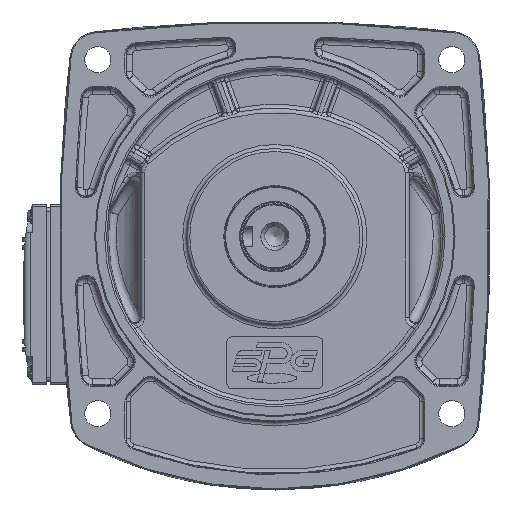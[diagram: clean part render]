
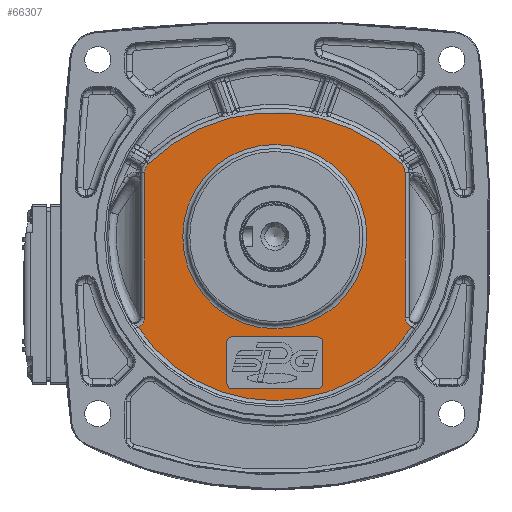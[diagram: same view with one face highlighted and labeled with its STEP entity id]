
A CAD part, top view. The second image highlights one B-rep face of the part: STEP entity #66307.
In plain terms, the highlighted planar face has unit normal (0, 0, 1).
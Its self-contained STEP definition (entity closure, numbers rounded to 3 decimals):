
#2219=LINE('',#108371,#5272);
#2223=LINE('',#108383,#5276);
#2258=LINE('',#108502,#5311);
#2328=LINE('',#108687,#5381);
#2580=LINE('',#115140,#5633);
#2581=LINE('',#115155,#5634);
#5272=VECTOR('',#82647,10.);
#5276=VECTOR('',#82659,10.);
#5311=VECTOR('',#82750,10.);
#5381=VECTOR('',#82938,10.);
#5633=VECTOR('',#84290,10.);
#5634=VECTOR('',#84293,10.);
#8289=FACE_BOUND('',#15249,.T.);
#8290=FACE_BOUND('',#15250,.T.);
#8976=PLANE('',#72006);
#11112=FACE_OUTER_BOUND('',#15248,.T.);
#15248=EDGE_LOOP('',(#48922,#48923,#48924,#48925,#48926,#48927,#48928,#48929));
#15249=EDGE_LOOP('',(#48930,#48931,#48932,#48933,#48934,#48935,#48936,#48937));
#15250=EDGE_LOOP('',(#48938));
#19142=CIRCLE('',#71364,3.);
#19144=CIRCLE('',#71368,3.);
#19146=CIRCLE('',#71372,3.);
#19170=CIRCLE('',#71399,3.);
#19484=CIRCLE('',#72002,81.929);
#19488=CIRCLE('',#72007,90.551);
#19489=CIRCLE('',#72008,46.);
#22373=B_SPLINE_CURVE_WITH_KNOTS('',3,(#115117,#115118,#115119,#115120,
#115121),.UNSPECIFIED.,.F.,.F.,(4,1,4),(0.682,0.93,
1.302),.UNSPECIFIED.);
#22375=B_SPLINE_CURVE_WITH_KNOTS('',3,(#115133,#115134,#115135,#115136,
#115137,#115138),.UNSPECIFIED.,.F.,.F.,(4,1,1,4),(0.,0.372,0.558,
0.621),.UNSPECIFIED.);
#22376=B_SPLINE_CURVE_WITH_KNOTS('',3,(#115142,#115143,#115144,#115145,
#115146),.UNSPECIFIED.,.F.,.F.,(4,1,4),(0.,0.205,0.478),
 .UNSPECIFIED.);
#22377=B_SPLINE_CURVE_WITH_KNOTS('',3,(#115150,#115151,#115152,#115153,
#115154),.UNSPECIFIED.,.F.,.F.,(4,1,4),(0.,0.273,0.478),
 .UNSPECIFIED.);
#26689=VERTEX_POINT('',#108361);
#26690=VERTEX_POINT('',#108363);
#26692=VERTEX_POINT('',#108369);
#26694=VERTEX_POINT('',#108375);
#26696=VERTEX_POINT('',#108381);
#26699=VERTEX_POINT('',#108388);
#26700=VERTEX_POINT('',#108390);
#26752=VERTEX_POINT('',#108501);
#27230=VERTEX_POINT('',#114911);
#27231=VERTEX_POINT('',#114913);
#27235=VERTEX_POINT('',#115116);
#27237=VERTEX_POINT('',#115132);
#27238=VERTEX_POINT('',#115139);
#27239=VERTEX_POINT('',#115141);
#27240=VERTEX_POINT('',#115147);
#27241=VERTEX_POINT('',#115149);
#27242=VERTEX_POINT('',#115156);
#33855=EDGE_CURVE('',#26689,#26690,#19142,.T.);
#33859=EDGE_CURVE('',#26689,#26692,#2219,.T.);
#33862=EDGE_CURVE('',#26694,#26692,#19144,.T.);
#33865=EDGE_CURVE('',#26694,#26696,#2223,.T.);
#33868=EDGE_CURVE('',#26699,#26700,#19146,.T.);
#33925=EDGE_CURVE('',#26752,#26700,#2258,.T.);
#33927=EDGE_CURVE('',#26752,#26696,#19170,.T.);
#34020=EDGE_CURVE('',#26699,#26690,#2328,.T.);
#34805=EDGE_CURVE('',#27230,#27231,#19484,.T.);
#34812=EDGE_CURVE('',#27231,#27235,#22373,.T.);
#34815=EDGE_CURVE('',#27237,#27230,#22375,.T.);
#34816=EDGE_CURVE('',#27238,#27237,#2580,.T.);
#34817=EDGE_CURVE('',#27239,#27238,#22376,.T.);
#34818=EDGE_CURVE('',#27240,#27239,#19488,.T.);
#34819=EDGE_CURVE('',#27241,#27240,#22377,.T.);
#34820=EDGE_CURVE('',#27235,#27241,#2581,.T.);
#34821=EDGE_CURVE('',#27242,#27242,#19489,.T.);
#48922=ORIENTED_EDGE('',*,*,#34805,.F.);
#48923=ORIENTED_EDGE('',*,*,#34815,.F.);
#48924=ORIENTED_EDGE('',*,*,#34816,.F.);
#48925=ORIENTED_EDGE('',*,*,#34817,.F.);
#48926=ORIENTED_EDGE('',*,*,#34818,.F.);
#48927=ORIENTED_EDGE('',*,*,#34819,.F.);
#48928=ORIENTED_EDGE('',*,*,#34820,.F.);
#48929=ORIENTED_EDGE('',*,*,#34812,.F.);
#48930=ORIENTED_EDGE('',*,*,#33865,.T.);
#48931=ORIENTED_EDGE('',*,*,#33927,.F.);
#48932=ORIENTED_EDGE('',*,*,#33925,.T.);
#48933=ORIENTED_EDGE('',*,*,#33868,.F.);
#48934=ORIENTED_EDGE('',*,*,#34020,.T.);
#48935=ORIENTED_EDGE('',*,*,#33855,.F.);
#48936=ORIENTED_EDGE('',*,*,#33859,.T.);
#48937=ORIENTED_EDGE('',*,*,#33862,.F.);
#48938=ORIENTED_EDGE('',*,*,#34821,.F.);
#66307=ADVANCED_FACE('',(#11112,#8289,#8290),#8976,.F.);
#71364=AXIS2_PLACEMENT_3D('',#108364,#82640,#82641);
#71368=AXIS2_PLACEMENT_3D('',#108377,#82653,#82654);
#71372=AXIS2_PLACEMENT_3D('',#108391,#82665,#82666);
#71399=AXIS2_PLACEMENT_3D('',#108505,#82754,#82755);
#72002=AXIS2_PLACEMENT_3D('',#114914,#84280,#84281);
#72006=AXIS2_PLACEMENT_3D('',#115131,#84288,#84289);
#72007=AXIS2_PLACEMENT_3D('',#115148,#84291,#84292);
#72008=AXIS2_PLACEMENT_3D('',#115157,#84294,#84295);
#82640=DIRECTION('center_axis',(0.,0.,1.));
#82641=DIRECTION('ref_axis',(0.707,-0.707,0.));
#82647=DIRECTION('',(-1.,0.,0.));
#82653=DIRECTION('center_axis',(0.,0.,1.));
#82654=DIRECTION('ref_axis',(-0.707,-0.707,0.));
#82659=DIRECTION('',(0.,1.,0.));
#82665=DIRECTION('center_axis',(0.,0.,1.));
#82666=DIRECTION('ref_axis',(0.707,0.707,0.));
#82750=DIRECTION('',(1.,0.,0.));
#82754=DIRECTION('center_axis',(0.,0.,1.));
#82755=DIRECTION('ref_axis',(-0.707,0.707,0.));
#82938=DIRECTION('',(0.,-1.,0.));
#84280=DIRECTION('center_axis',(0.,0.,-1.));
#84281=DIRECTION('ref_axis',(0.,-1.,0.));
#84288=DIRECTION('center_axis',(0.,0.,-1.));
#84289=DIRECTION('ref_axis',(-1.,0.,0.));
#84290=DIRECTION('',(0.,-1.,0.));
#84291=DIRECTION('center_axis',(0.,0.,-1.));
#84292=DIRECTION('ref_axis',(0.,1.,0.));
#84293=DIRECTION('',(0.,1.,0.));
#84294=DIRECTION('center_axis',(0.,0.,1.));
#84295=DIRECTION('ref_axis',(-1.,0.,0.));
#108361=CARTESIAN_POINT('',(23.891,-47.42,67.));
#108363=CARTESIAN_POINT('',(26.891,-44.42,67.));
#108364=CARTESIAN_POINT('Origin',(23.891,-44.42,67.));
#108369=CARTESIAN_POINT('',(-18.109,-47.42,67.));
#108371=CARTESIAN_POINT('',(-9.109,-47.42,67.));
#108375=CARTESIAN_POINT('',(-21.109,-44.42,67.));
#108377=CARTESIAN_POINT('Origin',(-18.109,-44.42,67.));
#108381=CARTESIAN_POINT('',(-21.109,-24.42,67.));
#108383=CARTESIAN_POINT('',(-21.109,-10.67,67.));
#108388=CARTESIAN_POINT('',(26.891,-24.42,67.));
#108390=CARTESIAN_POINT('',(23.891,-21.42,67.));
#108391=CARTESIAN_POINT('Origin',(23.891,-24.42,67.));
#108501=CARTESIAN_POINT('',(-18.109,-21.42,67.));
#108502=CARTESIAN_POINT('',(14.891,-21.42,67.));
#108505=CARTESIAN_POINT('Origin',(-18.109,-24.42,67.));
#108687=CARTESIAN_POINT('',(26.891,-23.67,67.));
#114911=CARTESIAN_POINT('',(71.3,-16.503,67.));
#114913=CARTESIAN_POINT('',(-65.518,-16.503,67.));
#114914=CARTESIAN_POINT('Origin',(2.891,28.58,67.));
#115116=CARTESIAN_POINT('',(-62.109,-11.751,67.));
#115117=CARTESIAN_POINT('Ctrl Pts',(-65.52,-16.499,
67.));
#115118=CARTESIAN_POINT('Ctrl Pts',(-64.731,-16.23,
67.));
#115119=CARTESIAN_POINT('Ctrl Pts',(-62.92,-15.07,
67.));
#115120=CARTESIAN_POINT('Ctrl Pts',(-62.109,-12.992,
67.));
#115121=CARTESIAN_POINT('Ctrl Pts',(-62.109,-11.751,
67.));
#115131=CARTESIAN_POINT('Origin',(2.891,0.08,67.));
#115132=CARTESIAN_POINT('',(67.891,-11.751,67.));
#115133=CARTESIAN_POINT('Ctrl Pts',(67.891,-11.751,
67.));
#115134=CARTESIAN_POINT('Ctrl Pts',(67.891,-12.992,
67.));
#115135=CARTESIAN_POINT('Ctrl Pts',(68.62,-14.854,
67.));
#115136=CARTESIAN_POINT('Ctrl Pts',(70.33,-16.116,
67.));
#115137=CARTESIAN_POINT('Ctrl Pts',(71.103,-16.432,
67.));
#115138=CARTESIAN_POINT('Ctrl Pts',(71.301,-16.498,
67.));
#115139=CARTESIAN_POINT('',(67.891,60.641,67.));
#115140=CARTESIAN_POINT('',(67.891,-41.67,67.));
#115141=CARTESIAN_POINT('',(66.076,64.943,67.));
#115142=CARTESIAN_POINT('Ctrl Pts',(66.076,64.943,67.));
#115143=CARTESIAN_POINT('Ctrl Pts',(66.565,64.467,67.));
#115144=CARTESIAN_POINT('Ctrl Pts',(67.525,63.141,67.));
#115145=CARTESIAN_POINT('Ctrl Pts',(67.891,61.551,67.));
#115146=CARTESIAN_POINT('Ctrl Pts',(67.891,60.641,67.));
#115147=CARTESIAN_POINT('',(-60.295,64.943,67.));
#115148=CARTESIAN_POINT('Origin',(2.891,0.08,67.));
#115149=CARTESIAN_POINT('',(-62.109,60.641,67.));
#115150=CARTESIAN_POINT('Ctrl Pts',(-62.109,60.641,67.));
#115151=CARTESIAN_POINT('Ctrl Pts',(-62.109,61.551,67.));
#115152=CARTESIAN_POINT('Ctrl Pts',(-61.743,63.141,67.));
#115153=CARTESIAN_POINT('Ctrl Pts',(-60.783,64.467,
67.));
#115154=CARTESIAN_POINT('Ctrl Pts',(-60.295,64.943,
67.));
#115155=CARTESIAN_POINT('',(-62.109,-41.67,67.));
#115156=CARTESIAN_POINT('',(48.891,28.58,67.));
#115157=CARTESIAN_POINT('Origin',(2.891,28.58,67.));
